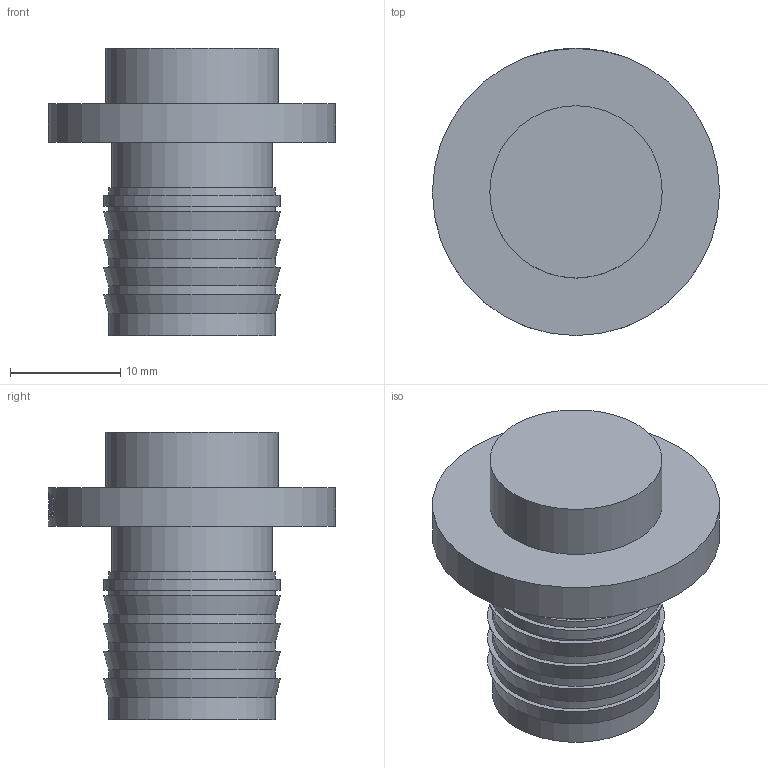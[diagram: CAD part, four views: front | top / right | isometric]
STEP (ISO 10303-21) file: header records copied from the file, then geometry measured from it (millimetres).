
FILE_DESCRIPTION(/* description */ (''),/* implementation_level */ '2;1');
FILE_NAME(/* name */ 'C:\Users\Doom\Desktop\Фадотех\Натяжка\SFZ02_NEW 20 21.08.2020\SFZ02_NEW 20 21.08.2020.stp',/* time_stamp */ '2022-07-26T16:34:39+03:00',/* author */ ('Doom'),/* organization */ (''),/* preprocessor_version */ 'ST-DEVELOPER v18',/* originating_system */ 'Autodesk Inventor 2020',/* authorisation */ '');
FILE_SCHEMA (('AUTOMOTIVE_DESIGN { 1 0 10303 214 3 1 1 }'));
Length unit declared in the file: millimetre
Products named in the file (1): 20 Model 18.12.2019
Bounding box: 26 x 26 x 26 mm (x, y, z)
Volume: 4038.3 mm3; surface area: 3281.4 mm2
Topology: 1 solids, 1 shells, 80 faces, 213 edges, 149 vertices
Faces by surface type: plane 30, bspline 28, cylinder 16, cone 6
Full cylindrical faces by diameter (mm): 10.8 x1, 14.5 x1, 15.1 x6, 15.6 x1, 16 x1, 26 x1
Entity records: 3249 total; most frequent: CARTESIAN_POINT 1306, ORIENTED_EDGE 424, DIRECTION 338, EDGE_CURVE 212, VERTEX_POINT 149, AXIS2_PLACEMENT_3D 129, EDGE_LOOP 95, FACE_OUTER_BOUND 80
